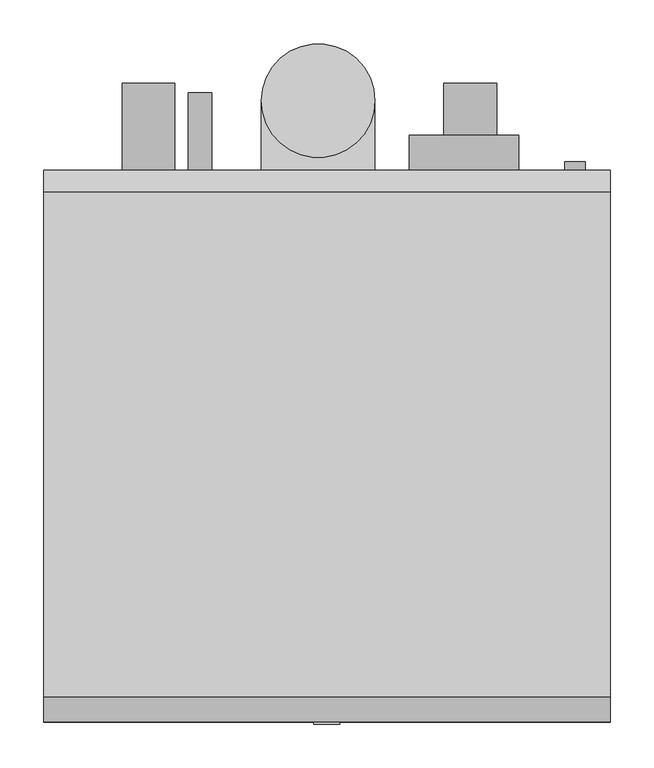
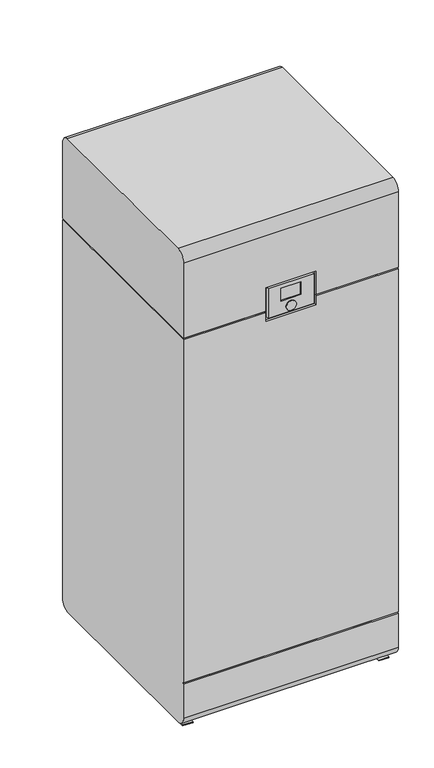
"""IFC4 building model written with IfcOpenShell, lengths in millimetres: unitary equipment geometry, AIC_Boiler_Nesta_FS_120-250 : Nesta 120 FS."""

import ifcopenshell
import ifcopenshell.guid

model = None  # the IFC model being written
_history = None  # IfcOwnerHistory: only IFC2X3 demands one
_inside = {}  # id of a spatial element -> (the spatial element, [elements in it])
_under = {}  # id of a project, library or spatial element -> (it, [spatial elements below it])
_declared = {}  # id of a project -> (the project, [libraries it declares])
_typed = {}  # id of a type object -> (the type object, [elements of that type])
_made_of = {}  # id of a material, layer set ... -> (it, [elements and type objects made of it])


def new_model(schema):
    """Start an empty IFC model of exactly this schema.

    Asked for "IFC4X3", IfcOpenShell would pick the latest addendum, in which some entities
    have other attributes; the version numbers below select the first issue.
    IFC2X3 requires an IfcOwnerHistory on every rooted entity: one is made here for all.
    """
    global model, _history
    if schema == "IFC4X3":
        model = ifcopenshell.file(schema_version=(4, 3, 0, 0))
    else:
        model = ifcopenshell.file(schema=schema)
    _inside.clear()
    _under.clear()
    _declared.clear()
    _typed.clear()
    _made_of.clear()
    _history = None
    if model.schema == "IFC2X3":
        org = make("IfcOrganization", Name="unknown")
        user = make(
            "IfcPersonAndOrganization",
            ThePerson=make("IfcPerson", FamilyName="unknown"),
            TheOrganization=org,
        )
        app = make(
            "IfcApplication",
            ApplicationDeveloper=org,
            Version="unknown",
            ApplicationFullName="unknown",
            ApplicationIdentifier="unknown",
        )
        _history = make(
            "IfcOwnerHistory",
            OwningUser=user,
            OwningApplication=app,
            ChangeAction="ADDED",
            CreationDate=0,
        )
    return model


def make(cls, **values):
    """One entity of the class cls with the attributes given. An attribute that is None is left unset."""
    return model.create_entity(
        cls, **{name: value for name, value in values.items() if value is not None}
    )


def rooted(cls, **values):
    """An entity with a GlobalId (a new one), such as an element, a storey or a relation."""
    return make(cls, GlobalId=ifcopenshell.guid.new(), OwnerHistory=_history, **values)


def si_unit(unit_type, name, prefix=None):
    """IfcSIUnit, for example si_unit("LENGTHUNIT", "METRE", prefix="MILLI")."""
    return make("IfcSIUnit", UnitType=unit_type, Prefix=prefix, Name=name)


def assignment(units):
    """IfcUnitAssignment: the units of a project."""
    return None if units is None else make("IfcUnitAssignment", Units=units)


def point(xyz):
    """IfcCartesianPoint."""
    return None if xyz is None else make("IfcCartesianPoint", Coordinates=xyz)


def direction(xyz):
    """IfcDirection."""
    return None if xyz is None else make("IfcDirection", DirectionRatios=xyz)


def frame(location, z_axis=None, x_axis=None):
    """IfcAxis2Placement3D, a coordinate frame: its origin and axes. An axis left out is left unset."""
    return make(
        "IfcAxis2Placement3D",
        Location=point(location),
        Axis=direction(z_axis),
        RefDirection=direction(x_axis),
    )


def frame_2d(location, x_axis=None):
    """IfcAxis2Placement2D, a coordinate frame in the plane: its origin and x axis."""
    return make(
        "IfcAxis2Placement2D", Location=point(location), RefDirection=direction(x_axis)
    )


def origin():
    """The frame at (0, 0, 0) with its axes left unset."""
    return frame((0.0, 0.0, 0.0))


def origin_with_axes():
    """The frame at (0, 0, 0) with the z axis (0, 0, 1) and the x axis (1, 0, 0) written out."""
    return frame((0.0, 0.0, 0.0), z_axis=(0.0, 0.0, 1.0), x_axis=(1.0, 0.0, 0.0))


def place(relative_to, where):
    """IfcLocalPlacement: puts the frame where relative to a parent placement (None: the world)."""
    return make(
        "IfcLocalPlacement", PlacementRelTo=relative_to, RelativePlacement=where
    )


def context(
    kind, dimensions, precision=None, world=None, true_north=None, identifier=None
):
    """IfcGeometricRepresentationContext, for example the 3D "Model" context."""
    return make(
        "IfcGeometricRepresentationContext",
        ContextIdentifier=identifier,
        ContextType=kind,
        CoordinateSpaceDimension=dimensions,
        Precision=precision,
        WorldCoordinateSystem=world,
        TrueNorth=true_north,
    )


def project(units=None, contexts=None):
    """IfcProject with its units and contexts."""
    return rooted(
        "IfcProject",
        Name="project",
        RepresentationContexts=contexts,
        UnitsInContext=assignment(units),
    )


def spatial(cls, under=None, at=None, **own):
    """A site, building, storey or space (cls), placed at a placement, below another one or the project."""
    s = rooted(cls, ObjectPlacement=at, **own)
    if under is not None:
        _under.setdefault(under.id(), (under, []))[1].append(s)
    return s


def polyline(points):
    """IfcPolyline through the points."""
    return make("IfcPolyline", Points=[point(p) for p in points])


def circle_curve(where, radius):
    """IfcCircle in the frame where."""
    return make("IfcCircle", Position=where, Radius=radius)


def trimmed(basis, trim1, trim2, sense, master):
    """IfcTrimmedCurve: the piece of a basis curve between two trims."""
    return make(
        "IfcTrimmedCurve",
        BasisCurve=basis,
        Trim1=trim1,
        Trim2=trim2,
        SenseAgreement=sense,
        MasterRepresentation=master,
    )


def segment(curve, same_sense, transition):
    """IfcCompositeCurveSegment."""
    return make(
        "IfcCompositeCurveSegment",
        Transition=transition,
        SameSense=same_sense,
        ParentCurve=curve,
    )


def composite_curve(segments, self_intersect=None):
    """IfcCompositeCurve: segments joined end to end."""
    return make("IfcCompositeCurve", Segments=segments, SelfIntersect=self_intersect)


def outline(outer, holes=None, kind="AREA"):
    """IfcArbitraryClosedProfileDef: a profile drawn as a closed curve; with holes, ...WithVoids."""
    if holes is None:
        return make("IfcArbitraryClosedProfileDef", ProfileType=kind, OuterCurve=outer)
    return make(
        "IfcArbitraryProfileDefWithVoids",
        ProfileType=kind,
        OuterCurve=outer,
        InnerCurves=holes,
    )


def extrude(swept, where, along, depth):
    """IfcExtrudedAreaSolid: the profile swept, set in the frame where, extruded along a direction by depth."""
    return make(
        "IfcExtrudedAreaSolid",
        SweptArea=swept,
        Position=where,
        ExtrudedDirection=direction(along),
        Depth=depth,
    )


def shape(context_of_items, identifier, shape_type, items):
    """IfcShapeRepresentation: the items that make up one representation, for example the "Body"."""
    return make(
        "IfcShapeRepresentation",
        ContextOfItems=context_of_items,
        RepresentationIdentifier=identifier,
        RepresentationType=shape_type,
        Items=items,
    )


def source(mapping_origin, context_of_items, identifier, shape_type, items):
    """IfcRepresentationMap: a shape defined once, which mapped items show again and again."""
    return make(
        "IfcRepresentationMap",
        MappingOrigin=mapping_origin,
        MappedRepresentation=shape(context_of_items, identifier, shape_type, items),
    )


def transform(
    local_origin,
    x_axis=None,
    y_axis=None,
    z_axis=None,
    scale=None,
    scale2=None,
    scale3=None,
    uniform=True,
):
    """IfcCartesianTransformationOperator3D, or its non-uniform kind. x_axis, y_axis, z_axis: its Axis1, 2, 3."""
    if uniform:
        return make(
            "IfcCartesianTransformationOperator3D",
            Axis1=direction(x_axis),
            Axis2=direction(y_axis),
            LocalOrigin=point(local_origin),
            Scale=scale,
            Axis3=direction(z_axis),
        )
    return make(
        "IfcCartesianTransformationOperator3DnonUniform",
        Axis1=direction(x_axis),
        Axis2=direction(y_axis),
        LocalOrigin=point(local_origin),
        Scale=scale,
        Axis3=direction(z_axis),
        Scale2=scale2,
        Scale3=scale3,
    )


def mapped(mapping_source, mapping_target):
    """IfcMappedItem: shows the shape of a source again, moved by a transform."""
    return make(
        "IfcMappedItem", MappingSource=mapping_source, MappingTarget=mapping_target
    )


def made_of(thing, what):
    """Note that an element or type object is made of a material, layer set ...; save() writes the relation."""
    if what is not None:
        _made_of.setdefault(what.id(), (what, []))[1].append(thing)
    return thing


def element(
    cls,
    number,
    at=None,
    inside=None,
    cuts=None,
    type_object=None,
    material=None,
    context=None,
    identifier="Body",
    shape_type=None,
    held_by="IfcProductDefinitionShape",
    body=None,
    shapes=None,
    **own,
):
    """One element of the class cls, such as IfcWall. Its Tag is "e" and its number.

    at: its placement. inside: the storey or other place that contains it. cuts: it is an
    opening in that element (IfcRelVoidsElement). A single representation is given by context,
    identifier, shape_type and body (its items); several are given by shapes. held_by: the class
    of the entity that holds the representations. save() writes the other relations.
    """
    e = rooted(cls, Tag="e%d" % number, ObjectPlacement=at, **own)
    if body is not None:
        shapes = [shape(context, identifier, shape_type, body)]
    if shapes is not None:
        e.Representation = make(held_by, Representations=shapes)
    if inside is not None:
        _inside.setdefault(inside.id(), (inside, []))[1].append(e)
    if cuts is not None:
        rooted(
            "IfcRelVoidsElement", RelatingBuildingElement=cuts, RelatedOpeningElement=e
        )
    if type_object is not None:
        _typed.setdefault(type_object.id(), (type_object, []))[1].append(e)
    return made_of(e, material)


def aggregate(whole, parts):
    """IfcRelAggregates: a whole, such as a stair, and the parts it consists of."""
    return rooted("IfcRelAggregates", RelatingObject=whole, RelatedObjects=parts)


def save(model, path):
    """Write the relations noted so far, then the file.

    IfcRelAggregates (storeys below a building ...), IfcRelContainedInSpatialStructure (elements
    in a storey), IfcRelDefinesByType, IfcRelAssociatesMaterial and IfcRelDeclares: one each for
    every whole, place, type object, material and project.
    """
    for whole, parts in _under.values():
        aggregate(whole, parts)
    for where, things in _inside.values():
        rooted(
            "IfcRelContainedInSpatialStructure",
            RelatedElements=things,
            RelatingStructure=where,
        )
    for kind, things in _typed.values():
        rooted("IfcRelDefinesByType", RelatedObjects=things, RelatingType=kind)
    for what, things in _made_of.values():
        rooted("IfcRelAssociatesMaterial", RelatedObjects=things, RelatingMaterial=what)
    for by, libraries in _declared.values():
        rooted("IfcRelDeclares", RelatingContext=by, RelatedDefinitions=libraries)
    model.write(path)


def plane_surface(at):
    """IfcPlane: the flat surface through the origin of the frame at, square to its z axis."""
    return make("IfcPlane", Position=at)


def cylinder_surface(at, radius):
    """IfcCylindricalSurface: all points at the distance radius from the z axis of the frame at."""
    return make("IfcCylindricalSurface", Position=at, Radius=radius)


def advanced_brep(points, edges, surfaces, faces):
    """IfcAdvancedBrep: a solid bounded by faces that lie on surfaces and meet in shared edges.

    An edge is (start, end): straight between two places in points (the first is 0);
    or (start, end, curve); or (start, end, curve, False) where it runs against its curve.
    A face is (place in surfaces, loops), or (place, loops, False) where it looks against
    its surface's normal. A loop lists edges by number (the first is 1), with a minus sign
    where the edge is run from its end to its start. The first loop is the outer one.
    """
    corners = [point(p) for p in points]
    vertices = [make("IfcVertexPoint", VertexGeometry=c) for c in corners]
    made = []
    for start, end, *more in edges:
        made.append(
            make(
                "IfcEdgeCurve",
                EdgeStart=vertices[start],
                EdgeEnd=vertices[end],
                EdgeGeometry=more[0] if more else make("IfcPolyline", Points=[corners[start], corners[end]]),
                SameSense=more[1] if len(more) > 1 else True,
            )
        )
    hull = []
    for where, loops, *sense in faces:
        bounds = []
        for j, loop in enumerate(loops):
            ring = [make("IfcOrientedEdge", EdgeElement=made[abs(k) - 1], Orientation=k > 0) for k in loop]
            bounds.append(
                make(
                    "IfcFaceOuterBound" if j == 0 else "IfcFaceBound",
                    Bound=make("IfcEdgeLoop", EdgeList=ring),
                    Orientation=True,
                )
            )
        hull.append(make("IfcAdvancedFace", Bounds=bounds, FaceSurface=surfaces[where], SameSense=sense[0] if sense else True))
    return make("IfcAdvancedBrep", Outer=make("IfcClosedShell", CfsFaces=hull))


def unitary_equipment_00922582(model_context):
    return source(origin(), model_context, "Body", "SolidModel", [
        extrude(outline(composite_curve([segment(trimmed(circle_curve(frame_2d((600.0, 284.0)), 11.6), [point((600.0, 295.6))], [point((600.0, 272.4))], False, "CARTESIAN"), True, "CONTINUOUS"), segment(trimmed(circle_curve(frame_2d((600.0, 284.0)), 11.6), [point((600.0, 272.4))], [point((600.0, 295.6))], False, "CARTESIAN"), True, "CONTINUOUS")], self_intersect=False)), frame((0.0, 315.5, 0.0), z_axis=(0.0, 1.0, 0.0), x_axis=(0.0, 0.0, 1.0)), (0.0, 0.0, 1.0), 10.0),
        extrude(outline(composite_curve([segment(trimmed(circle_curve(frame_2d((-10.0, 395.5)), 65.0), [point((-75.0, 395.5))], [point((55.0, 395.5))], False, "CARTESIAN"), True, "CONTINUOUS"), segment(trimmed(circle_curve(frame_2d((-10.0, 395.5)), 65.0), [point((55.0, 395.5))], [point((-75.0, 395.5))], False, "CARTESIAN"), True, "CONTINUOUS")], self_intersect=False)), frame((0.0, 0.0, 302.0), z_axis=(0.0, 0.0, 1.0), x_axis=(1.0, 0.0, 0.0)), (0.0, 0.0, 1.0), 98.0),
        extrude(outline(composite_curve([segment(polyline([(-75.0, 315.5), (-75.0, 395.5)]), True, "CONTINUOUS"), segment(trimmed(circle_curve(frame_2d((-10.0, 395.5)), 65.0), [point((-75.0, 395.5))], [point((55.0, 395.5))], False, "CARTESIAN"), True, "CONTINUOUS"), segment(polyline([(55.0, 395.5), (55.0, 315.5), (-75.0, 315.5)]), True, "CONTINUOUS")], self_intersect=False)), frame((0.0, 0.0, 232.0), z_axis=(0.0, 0.0, 1.0), x_axis=(1.0, 0.0, 0.0)), (0.0, 0.0, 1.0), 70.0),
        extrude(outline(composite_curve([segment(trimmed(circle_curve(frame_2d((141.0, 196.0)), 12.5), [point((141.0, 208.5))], [point((141.0, 183.5))], False, "CARTESIAN"), True, "CONTINUOUS"), segment(trimmed(circle_curve(frame_2d((141.0, 196.0)), 12.5), [point((141.0, 183.5))], [point((141.0, 208.5))], False, "CARTESIAN"), True, "CONTINUOUS")], self_intersect=False)), frame((0.0, 315.5, 0.0), z_axis=(0.0, 1.0, 0.0), x_axis=(0.0, 0.0, 1.0)), (0.0, 0.0, 1.0), 13.0),
        extrude(outline(composite_curve([segment(trimmed(circle_curve(frame_2d((354.0, 164.0)), 30.15), [point((354.0, 194.15))], [point((354.0, 133.85))], False, "CARTESIAN"), True, "CONTINUOUS"), segment(trimmed(circle_curve(frame_2d((354.0, 164.0)), 30.15), [point((354.0, 133.85))], [point((354.0, 194.15))], False, "CARTESIAN"), True, "CONTINUOUS")], self_intersect=False)), frame((0.0, 315.5, 0.0), z_axis=(0.0, 1.0, 0.0), x_axis=(0.0, 0.0, 1.0)), (0.0, 0.0, 1.0), 100.0),
        extrude(outline(composite_curve([segment(trimmed(circle_curve(frame_2d((1098.0, -204.0)), 30.15), [point((1098.0, -173.85))], [point((1098.0, -234.15))], False, "CARTESIAN"), True, "CONTINUOUS"), segment(trimmed(circle_curve(frame_2d((1098.0, -204.0)), 30.15), [point((1098.0, -234.15))], [point((1098.0, -173.85))], False, "CARTESIAN"), True, "CONTINUOUS")], self_intersect=False)), frame((0.0, 315.5, 0.0), z_axis=(0.0, 1.0, 0.0), x_axis=(0.0, 0.0, 1.0)), (0.0, 0.0, 1.0), 100.0),
        extrude(outline(composite_curve([segment(trimmed(circle_curve(frame_2d((1306.9643556, -145.193117)), 13.45), [point((1306.9643556, -131.743117))], [point((1306.9643556, -158.643117))], False, "CARTESIAN"), True, "CONTINUOUS"), segment(trimmed(circle_curve(frame_2d((1306.9643556, -145.193117)), 13.45), [point((1306.9643556, -158.643117))], [point((1306.9643556, -131.743117))], False, "CARTESIAN"), True, "CONTINUOUS")], self_intersect=False)), frame((0.0, 315.5, 0.0), z_axis=(0.0, 1.0, 0.0), x_axis=(0.0, 0.0, 1.0)), (0.0, 0.0, 1.0), 89.0),
        extrude(outline(composite_curve([segment(trimmed(circle_curve(frame_2d((1324.0, 157.0)), 62.5), [point((1324.0, 219.5))], [point((1324.0, 94.5))], False, "CARTESIAN"), True, "CONTINUOUS"), segment(trimmed(circle_curve(frame_2d((1324.0, 157.0)), 62.5), [point((1324.0, 94.5))], [point((1324.0, 219.5))], False, "CARTESIAN"), True, "CONTINUOUS")], self_intersect=False)), frame((0.0, 315.5, 0.0), z_axis=(0.0, 1.0, 0.0), x_axis=(0.0, 0.0, 1.0)), (0.0, 0.0, 1.0), 40.0),
        extrude(outline(polyline([(-0.574259, 15.3863839), (16.0151184, 21.4244235), (16.0151184, -21.4244235), (-0.574259, -15.3863839), (-0.574259, 15.3863839)])), frame((0.0, -239.0, 0.0), z_axis=(0.0, 1.0, 0.0), x_axis=(0.0, 0.0, 1.0)), (0.0, 0.0, 1.0), 478.0),
        extrude(outline(polyline([(-280.0, 239.0), (-280.0, -239.0), (-311.0, -239.0), (-311.0, 239.0), (-280.0, 239.0)])), frame((0.0, 0.0, 3.0), z_axis=(0.0, 0.0, 1.0), x_axis=(1.0, 0.0, 0.0)), (0.0, 0.0, 1.0), 13.0),
        extrude(outline(polyline([(280.0, 239.0), (311.0, 239.0), (311.0, -239.0), (280.0, -239.0), (280.0, 239.0)])), frame((0.0, 0.0, 3.0), z_axis=(0.0, 0.0, 1.0), x_axis=(1.0, 0.0, 0.0)), (0.0, 0.0, 1.0), 13.0),
        extrude(outline(polyline([(-280.0, 280.0), (-280.0, -288.758383), (-311.0, -288.758383), (-311.0, 280.0), (-280.0, 280.0)])), origin_with_axes(), (0.0, 0.0, 1.0), 3.0),
        extrude(outline(polyline([(280.0, 280.0), (311.0, 280.0), (311.0, -288.758383), (280.0, -288.758383), (280.0, 280.0)])), origin_with_axes(), (0.0, 0.0, 1.0), 3.0),
        extrude(outline(composite_curve([segment(trimmed(circle_curve(frame_2d((1248.0, 0.0)), 15.0), [point((1248.0, -15.0))], [point((1248.0, 15.0))], False, "CARTESIAN"), True, "CONTINUOUS"), segment(trimmed(circle_curve(frame_2d((1248.0, 0.0)), 15.0), [point((1248.0, 15.0))], [point((1248.0, -15.0))], False, "CARTESIAN"), True, "CONTINUOUS")], self_intersect=False)), frame((0.0, -318.0, 0.0), z_axis=(0.0, 1.0, 0.0), x_axis=(0.0, 0.0, 1.0)), (0.0, 0.0, 1.0), 2.5),
        advanced_brep(
        [(-324.0, 290.5, 1524.0), (-324.0, -286.5, 1524.0), (324.0, -286.5, 1524.0), (324.0, 290.5, 1524.0), (324.0, 286.5, 16.0), (324.0, -286.5, 16.0), (-324.0, -286.5, 16.0), (-324.0, 286.5, 16.0), (-324.0, 315.5, 1495.2771868), (-324.0, 315.5, 1255.0), (-324.0, -315.5, 1255.0), (-324.0, -315.5, 1495.0), (-324.0, -315.5, 45.0), (-324.0, -315.5, 153.0), (-324.0, -310.0, 153.0), (-324.0, -310.0, 158.0), (-324.0, -315.5, 158.0), (-324.0, -315.5, 1250.0), (-324.0, 315.5, 1250.0), (-324.0, 315.5, 45.0), (324.0, -315.5, 45.0), (324.0, -315.5, 153.0), (324.0, -315.5, 1495.0), (-77.0, -315.5, 1255.0), (-77.0, -315.5, 1330.0), (77.0, -315.5, 1330.0), (77.0, -315.5, 1255.0), (324.0, -315.5, 1255.0), (-77.0, -315.5, 1250.0), (324.0, -315.5, 158.0), (324.0, -315.5, 1250.0), (77.0, -315.5, 1250.0), (77.0, -315.5, 1221.0), (-77.0, -315.5, 1221.0), (70.0, -315.5, 1229.0), (70.0, -315.5, 1323.0), (-68.2140255, -315.5, 1323.0), (-68.2140255, -315.5, 1229.0), (-30.0, -315.5, 1312.0), (30.0, -315.5, 1312.0), (30.0, -315.5, 1271.0), (-30.0, -315.5, 1271.0), (324.0, 315.5, 1255.0), (324.0, 315.5, 1495.2771868), (324.0, 315.5, 45.0), (324.0, 315.5, 1250.0), (324.0, -310.0, 158.0), (324.0, -310.0, 153.0), (-319.0, 315.5, 1250.0), (-319.0, 315.5, 1255.0), (319.0, 315.5, 1255.0), (319.0, 315.5, 1250.0), (-77.0, -310.0, 1255.0), (-319.0, -310.0, 1255.0), (-319.0, -310.0, 1250.0), (-77.0, -310.0, 1250.0), (319.0, -310.0, 1255.0), (77.0, -310.0, 1255.0), (319.0, -310.0, 1250.0), (77.0, -310.0, 1250.0), (30.0, -312.454303, 1312.0), (-30.0, -312.454303, 1312.0), (-30.0, -312.454303, 1271.0), (30.0, -312.454303, 1271.0), (77.0, -307.0, 1330.0), (-77.0, -307.0, 1330.0), (-77.0, -307.0, 1221.0), (77.0, -307.0, 1221.0), (70.0, -307.0, 1323.0), (70.0, -307.0, 1229.0), (-68.2140255, -307.0, 1229.0), (-68.2140255, -307.0, 1323.0)],
        [
            (0, 1),
            (1, 2),
            (2, 3),
            (3, 0),
            (4, 5),
            (5, 6),
            (6, 7),
            (7, 4),
            (0, 8, circle_curve(frame((-324.0, 286.5, 1495.2771868), z_axis=(-1.0, 0.0, 0.0), x_axis=(0.0, 1.0, 0.0)), 29.0)),
            (8, 9),
            (9, 10),
            (10, 11),
            (11, 1, circle_curve(frame((-324.0, -286.5, 1495.0), z_axis=(-1.0, 0.0, 0.0), x_axis=(0.0, 1.0, 0.0)), 29.0)),
            (6, 12, circle_curve(frame((-324.0, -286.5, 45.0), z_axis=(-1.0, 0.0, 0.0), x_axis=(0.0, 1.0, 0.0)), 29.0)),
            (12, 13),
            (13, 14),
            (14, 15),
            (15, 16),
            (16, 17),
            (17, 18),
            (18, 19),
            (19, 7, circle_curve(frame((-324.0, 286.5, 45.0), z_axis=(-1.0, 0.0, 0.0), x_axis=(0.0, 1.0, 0.0)), 29.0)),
            (12, 20),
            (20, 21),
            (21, 13),
            (22, 11),
            (10, 23),
            (23, 24),
            (24, 25),
            (25, 26),
            (26, 27),
            (27, 22),
            (28, 17),
            (16, 29),
            (29, 30),
            (30, 31),
            (31, 32),
            (32, 33),
            (33, 28),
            (34, 35),
            (35, 36),
            (36, 37),
            (37, 34),
            (38, 39),
            (39, 40),
            (40, 41),
            (41, 38),
            (2, 22, circle_curve(frame((324.0, -286.5, 1495.0), z_axis=(1.0, 0.0, 0.0), x_axis=(0.0, 1.0, 0.0)), 29.0)),
            (27, 42),
            (42, 43),
            (43, 3, circle_curve(frame((324.0, 286.5, 1495.2771868), z_axis=(1.0, 0.0, 0.0), x_axis=(0.0, 1.0, 0.0)), 29.0)),
            (4, 44, circle_curve(frame((324.0, 286.5, 45.0), z_axis=(1.0, 0.0, 0.0), x_axis=(0.0, 1.0, 0.0)), 29.0)),
            (44, 45),
            (45, 30),
            (29, 46),
            (46, 47),
            (47, 21),
            (20, 5, circle_curve(frame((324.0, -286.5, 45.0), z_axis=(1.0, 0.0, 0.0), x_axis=(0.0, 1.0, 0.0)), 29.0)),
            (44, 19),
            (18, 48),
            (48, 49),
            (49, 9),
            (8, 43),
            (42, 50),
            (50, 51),
            (51, 45),
            (52, 53),
            (53, 54),
            (54, 55),
            (55, 52),
            (49, 53),
            (52, 23),
            (56, 50),
            (26, 57),
            (57, 56),
            (28, 55),
            (54, 48),
            (51, 58),
            (58, 59),
            (59, 31),
            (56, 58),
            (46, 15),
            (14, 47),
            (60, 61),
            (61, 62),
            (62, 63),
            (63, 60),
            (60, 39),
            (38, 61),
            (41, 62),
            (40, 63),
            (64, 65),
            (65, 66),
            (66, 67),
            (67, 64),
            (68, 69),
            (69, 70),
            (70, 71),
            (71, 68),
            (64, 25),
            (24, 65),
            (33, 66),
            (32, 67),
            (59, 57),
            (68, 35),
            (34, 69),
            (37, 70),
            (36, 71),
        ],
        [
            plane_surface(frame((-324.0, 315.5, 1524.0), z_axis=(0.0, 0.0, 1.0), x_axis=(0.0, -1.0, 0.0))),
            plane_surface(frame((-324.0, 315.5, 16.0), z_axis=(0.0, 0.0, -1.0), x_axis=(0.0, 1.0, 0.0))),
            plane_surface(frame((-324.0, 315.5, 1524.0), z_axis=(-1.0, 0.0, 0.0), x_axis=(0.0, 0.0, -1.0))),
            plane_surface(frame((-324.0, -315.5, 1524.0), z_axis=(0.0, -1.0, 0.0), x_axis=(0.0, 0.0, -1.0))),
            plane_surface(frame((324.0, -315.5, 1524.0), z_axis=(1.0, 0.0, 0.0), x_axis=(0.0, 0.0, -1.0))),
            plane_surface(frame((324.0, 315.5, 1524.0), z_axis=(0.0, 1.0, 0.0), x_axis=(0.0, 0.0, -1.0))),
            cylinder_surface(frame((-324.0, -286.5, 45.0), z_axis=(-1.0, 0.0, 0.0), x_axis=(0.0, 1.0, 0.0)), 29.0),
            cylinder_surface(frame((0.0, 286.5, 45.0), z_axis=(-1.0, 0.0, 0.0), x_axis=(0.0, 1.0, 0.0)), 29.0),
            cylinder_surface(frame((0.0, -286.5, 1495.0), z_axis=(-1.0, 0.0, 0.0), x_axis=(0.0, 1.0, 0.0)), 29.0),
            cylinder_surface(frame((0.0, 286.5, 1495.2771868), z_axis=(-1.0, 0.0, 0.0), x_axis=(0.0, 1.0, 0.0)), 29.0),
            plane_surface(frame((-324.0, -310.0, 1255.0), z_axis=(0.0, -1.0, 0.0), x_axis=(1.0, 0.0, 0.0))),
            plane_surface(frame((-77.0, -315.5, 1255.0), z_axis=(0.0, 0.0, -1.0), x_axis=(0.0, 1.0, 0.0))),
            plane_surface(frame((-324.0, -315.5, 1250.0), z_axis=(0.0, 0.0, 1.0), x_axis=(0.0, 1.0, 0.0))),
            plane_surface(frame((-319.0, -310.0, 1255.0), z_axis=(-1.0, 0.0, 0.0), x_axis=(0.0, 0.0, -1.0))),
            plane_surface(frame((319.0, 315.5, 1255.0), z_axis=(1.0, 0.0, 0.0), x_axis=(0.0, 0.0, -1.0))),
            plane_surface(frame((-324.0, -310.0, 158.0), z_axis=(0.0, -1.0, 0.0), x_axis=(1.0, 0.0, 0.0))),
            plane_surface(frame((324.0, -315.5, 158.0), z_axis=(0.0, 0.0, -1.0), x_axis=(0.0, 1.0, 0.0))),
            plane_surface(frame((-324.0, -315.5, 153.0), z_axis=(0.0, 0.0, 1.0), x_axis=(0.0, 1.0, 0.0))),
            plane_surface(frame((-30.0, -312.454303, 1312.0), z_axis=(0.0, -1.0, 0.0), x_axis=(1.0, 0.0, 0.0))),
            plane_surface(frame((30.0, -315.5, 1312.0), z_axis=(0.0, 0.0, -1.0), x_axis=(0.0, 1.0, 0.0))),
            plane_surface(frame((-30.0, -315.5, 1312.0), z_axis=(1.0, 0.0, 0.0), x_axis=(0.0, 1.0, 0.0))),
            plane_surface(frame((-30.0, -315.5, 1271.0), z_axis=(0.0, 0.0, 1.0), x_axis=(0.0, 1.0, 0.0))),
            plane_surface(frame((30.0, -315.5, 1271.0), z_axis=(-1.0, 0.0, 0.0), x_axis=(0.0, 1.0, 0.0))),
            plane_surface(frame((-77.0, -307.0, 1330.0), z_axis=(0.0, -1.0, 0.0), x_axis=(1.0, 0.0, 0.0))),
            plane_surface(frame((77.0, -320.8955874, 1330.0), z_axis=(0.0, 0.0, -1.0), x_axis=(0.0, 1.0, 0.0))),
            plane_surface(frame((-77.0, -320.8955874, 1330.0), z_axis=(1.0, 0.0, 0.0), x_axis=(0.0, 1.0, 0.0))),
            plane_surface(frame((-77.0, -320.8955874, 1221.0), z_axis=(0.0, 0.0, 1.0), x_axis=(0.0, 1.0, 0.0))),
            plane_surface(frame((77.0, -320.8955874, 1221.0), z_axis=(-1.0, 0.0, 0.0), x_axis=(0.0, 1.0, 0.0))),
            plane_surface(frame((70.0, -320.8955874, 1323.0), z_axis=(1.0, 0.0, 0.0), x_axis=(0.0, 1.0, 0.0))),
            plane_surface(frame((70.0, -320.8955874, 1229.0), z_axis=(0.0, 0.0, -1.0), x_axis=(0.0, 1.0, 0.0))),
            plane_surface(frame((-68.2140255, -320.8955874, 1229.0), z_axis=(-1.0, 0.0, 0.0), x_axis=(0.0, 1.0, 0.0))),
            plane_surface(frame((-68.2140255, -320.8955874, 1323.0), z_axis=(0.0, 0.0, 1.0), x_axis=(0.0, 1.0, 0.0))),
            plane_surface(frame((77.0, -310.0, 1255.0), z_axis=(0.0, -1.0, 0.0), x_axis=(0.0, 0.0, 1.0))),
        ],
        [
            (0, [[1, 2, 3, 4]]),
            (1, [[5, 6, 7, 8]]),
            (2, [[-1, 9, 10, 11, 12, 13]]),
            (2, [[-7, 14, 15, 16, 17, 18, 19, 20, 21, 22]]),
            (3, [[23, 24, 25, -15]]),
            (3, [[26, -12, 27, 28, 29, 30, 31, 32]]),
            (3, [[33, -19, 34, 35, 36, 37, 38, 39]]),
            (3, [[40, 41, 42, 43], [44, 45, 46, 47]]),
            (4, [[-3, 48, -32, 49, 50, 51]]),
            (4, [[-5, 52, 53, 54, -35, 55, 56, 57, -24, 58]]),
            (5, [[59, -21, 60, 61, 62, -10, 63, -50, 64, 65, 66, -53]]),
            (6, [[-6, -58, -23, -14]]),
            (7, [[-8, -22, -59, -52]]),
            (8, [[-2, -13, -26, -48]]),
            (9, [[-4, -51, -63, -9]]),
            (10, [[67, 68, 69, 70]]),
            (11, [[-27, -11, -62, 71, -67, 72]]),
            (11, [[73, -64, -49, -31, 74, 75]]),
            (12, [[-33, 76, -69, 77, -60, -20]]),
            (12, [[78, 79, 80, -36, -54, -66]]),
            (13, [[-71, -61, -77, -68]]),
            (14, [[-73, 81, -78, -65]]),
            (15, [[82, -17, 83, -56]]),
            (16, [[-82, -55, -34, -18]]),
            (17, [[-83, -16, -25, -57]]),
            (18, [[84, 85, 86, 87]]),
            (19, [[-84, 88, -44, 89]]),
            (20, [[-85, -89, -47, 90]]),
            (21, [[-86, -90, -46, 91]]),
            (22, [[-87, -91, -45, -88]]),
            (23, [[92, 93, 94, 95], [96, 97, 98, 99]]),
            (24, [[-92, 100, -29, 101]]),
            (25, [[-93, -101, -28, -72, -70, -76, -39, 102]]),
            (26, [[-94, -102, -38, 103]]),
            (27, [[-95, -103, -37, -80, 104, -74, -30, -100]]),
            (28, [[-96, 105, -40, 106]]),
            (29, [[-97, -106, -43, 107]]),
            (30, [[-98, -107, -42, 108]]),
            (31, [[-99, -108, -41, -105]]),
            (32, [[-75, -104, -79, -81]]),
        ],
    ),
    ])


if __name__ == "__main__":
    model = new_model("IFC4")
    model_context = context("Model", 3, world=origin())
    ifc_project = project(units=[si_unit("LENGTHUNIT", "METRE", prefix="MILLI")], contexts=[model_context])
    site = spatial("IfcSite", under=ifc_project)
    building = spatial("IfcBuilding", under=site)
    placement = place(None, origin())
    unitary_equipment_shape = unitary_equipment_00922582(model_context)
    element("IfcUnitaryEquipment", 1, ObjectType="AIC_Boiler_Nesta_FS_120-250 : Nesta 120 FS", at=placement, inside=building, context=model_context, shape_type="MappedRepresentation", body=[
        mapped(unitary_equipment_shape, transform((0.0, 0.0, 0.0), x_axis=(1.0, 0.0, 0.0), y_axis=(0.0, 1.0, 0.0), z_axis=(0.0, 0.0, 1.0))),
    ])
    save(model, "model.ifc")
